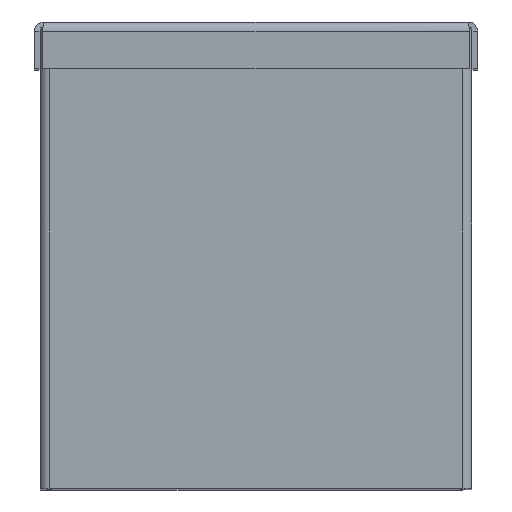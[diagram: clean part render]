
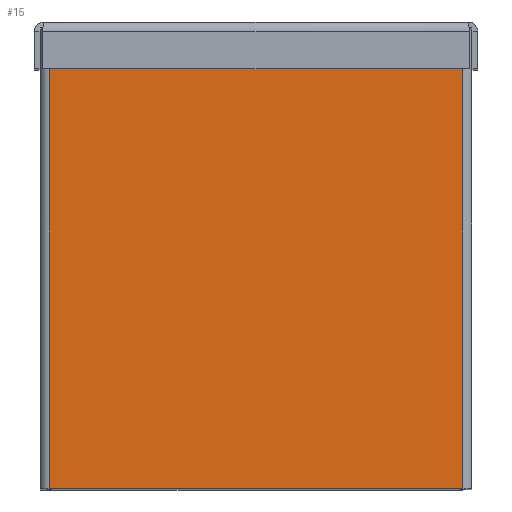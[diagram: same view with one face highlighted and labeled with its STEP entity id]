
A CAD part, top view. The second image highlights one B-rep face of the part: STEP entity #15.
In plain terms, the highlighted planar face has unit normal (0, 0, 1).
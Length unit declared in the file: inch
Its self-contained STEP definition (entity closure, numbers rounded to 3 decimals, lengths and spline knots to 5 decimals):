
#15 = ADVANCED_FACE ( 'NONE', ( #3134 ), #307, .T. ) ;
#41 = DIRECTION ( 'NONE',  ( 0., -1., 0. ) ) ;
#54 = CARTESIAN_POINT ( 'NONE',  ( 2.215, -2.47, 0. ) ) ;
#73 = DIRECTION ( 'NONE',  ( 1., 0., 0. ) ) ;
#181 = ORIENTED_EDGE ( 'NONE', *, *, #2273, .T. ) ;
#198 = VERTEX_POINT ( 'NONE', #3453 ) ;
#307 = PLANE ( 'NONE',  #2469 ) ;
#327 = CARTESIAN_POINT ( 'NONE',  ( -2.315, 2.47, 0. ) ) ;
#365 = CARTESIAN_POINT ( 'NONE',  ( 2.215, -2.47, 0. ) ) ;
#613 = EDGE_LOOP ( 'NONE', ( #181, #2289, #1006, #2722 ) ) ;
#918 = CARTESIAN_POINT ( 'NONE',  ( -2.315, -2.47, 0. ) ) ;
#986 = DIRECTION ( 'NONE',  ( -1., 0., 0. ) ) ;
#1006 = ORIENTED_EDGE ( 'NONE', *, *, #3369, .T. ) ;
#1079 = VECTOR ( 'NONE', #1720, 39.37008 ) ;
#1217 = DIRECTION ( 'NONE',  ( 0., 1., 0. ) ) ;
#1232 = LINE ( 'NONE', #327, #1530 ) ;
#1295 = LINE ( 'NONE', #1817, #1647 ) ;
#1503 = LINE ( 'NONE', #365, #3515 ) ;
#1530 = VECTOR ( 'NONE', #986, 39.37008 ) ;
#1647 = VECTOR ( 'NONE', #41, 39.37008 ) ;
#1720 = DIRECTION ( 'NONE',  ( 1., 0., 0. ) ) ;
#1735 = VERTEX_POINT ( 'NONE', #2271 ) ;
#1775 = EDGE_CURVE ( 'NONE', #2859, #2723, #1503, .T. ) ;
#1794 = DIRECTION ( 'NONE',  ( 0., 0., 1. ) ) ;
#1817 = CARTESIAN_POINT ( 'NONE',  ( -2.215, 2.47, 0. ) ) ;
#1831 = CARTESIAN_POINT ( 'NONE',  ( 0., 0., 0. ) ) ;
#1889 = EDGE_CURVE ( 'NONE', #1735, #198, #1295, .T. ) ;
#2271 = CARTESIAN_POINT ( 'NONE',  ( -2.215, 2.47, 0. ) ) ;
#2273 = EDGE_CURVE ( 'NONE', #2723, #1735, #1232, .T. ) ;
#2289 = ORIENTED_EDGE ( 'NONE', *, *, #1889, .T. ) ;
#2469 = AXIS2_PLACEMENT_3D ( 'NONE', #1831, #1794, #73 ) ;
#2720 = CARTESIAN_POINT ( 'NONE',  ( 2.215, 2.47, 0. ) ) ;
#2722 = ORIENTED_EDGE ( 'NONE', *, *, #1775, .T. ) ;
#2723 = VERTEX_POINT ( 'NONE', #2720 ) ;
#2859 = VERTEX_POINT ( 'NONE', #54 ) ;
#3134 = FACE_OUTER_BOUND ( 'NONE', #613, .T. ) ;
#3150 = LINE ( 'NONE', #918, #1079 ) ;
#3369 = EDGE_CURVE ( 'NONE', #198, #2859, #3150, .T. ) ;
#3453 = CARTESIAN_POINT ( 'NONE',  ( -2.215, -2.47, 0. ) ) ;
#3515 = VECTOR ( 'NONE', #1217, 39.37008 ) ;
